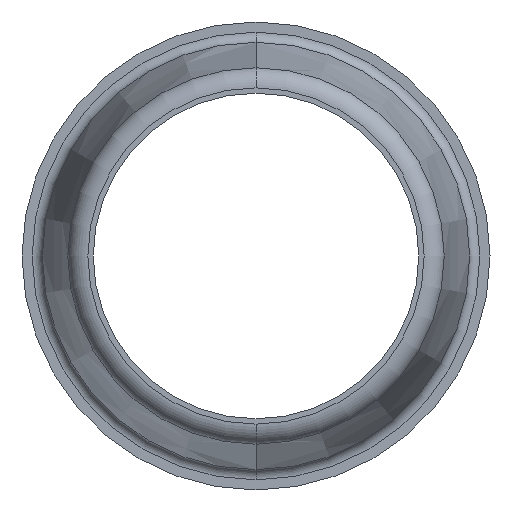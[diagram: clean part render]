
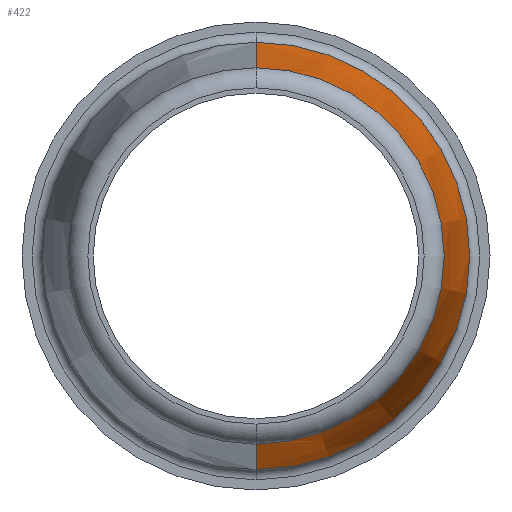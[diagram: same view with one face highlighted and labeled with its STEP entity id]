
A CAD part, front view. The second image highlights one B-rep face of the part: STEP entity #422.
In plain terms, the highlighted conical face has half-angle 9.267 degrees and reference radius 9.25 mm.
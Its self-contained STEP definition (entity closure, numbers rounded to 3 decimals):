
#8 = VECTOR ( 'NONE', #278, 1000. ) ;
#69 = CARTESIAN_POINT ( 'NONE',  ( 571.403, -2053.452, 0. ) ) ;
#75 = EDGE_CURVE ( 'NONE', #1111, #586, #951, .T. ) ;
#92 = DIRECTION ( 'NONE',  ( 0., 0., 1. ) ) ;
#94 = AXIS2_PLACEMENT_3D ( 'NONE', #191, #735, #92 ) ;
#107 = EDGE_LOOP ( 'NONE', ( #1008, #749, #125, #1108 ) ) ;
#125 = ORIENTED_EDGE ( 'NONE', *, *, #132, .F. ) ;
#132 = EDGE_CURVE ( 'NONE', #586, #1139, #1151, .T. ) ;
#171 = AXIS2_PLACEMENT_3D ( 'NONE', #453, #534, #1005 ) ;
#191 = CARTESIAN_POINT ( 'NONE',  ( 571.403, -2053.452, 0. ) ) ;
#252 = CARTESIAN_POINT ( 'NONE',  ( 571.403, -2053.452, 9.25 ) ) ;
#275 = AXIS2_PLACEMENT_3D ( 'NONE', #69, #1093, #1190 ) ;
#278 = DIRECTION ( 'NONE',  ( 0., 0.987, -0.161 ) ) ;
#314 = VERTEX_POINT ( 'NONE', #485 ) ;
#334 = EDGE_CURVE ( 'NONE', #314, #1139, #695, .T. ) ;
#341 = CONICAL_SURFACE ( 'NONE', #275, 9.25, 0.162 ) ;
#367 = DIRECTION ( 'NONE',  ( 0., 0.987, 0.161 ) ) ;
#375 = FACE_OUTER_BOUND ( 'NONE', #107, .T. ) ;
#422 = ADVANCED_FACE ( 'NONE', ( #375 ), #341, .T. ) ;
#428 = CARTESIAN_POINT ( 'NONE',  ( 571.403, -2045.791, 10.5 ) ) ;
#453 = CARTESIAN_POINT ( 'NONE',  ( 571.403, -2045.791, 0. ) ) ;
#485 = CARTESIAN_POINT ( 'NONE',  ( 571.403, -2053.452, -9.25 ) ) ;
#534 = DIRECTION ( 'NONE',  ( 0., 1., 0. ) ) ;
#586 = VERTEX_POINT ( 'NONE', #428 ) ;
#640 = CIRCLE ( 'NONE', #94, 9.25 ) ;
#695 = LINE ( 'NONE', #920, #8 ) ;
#735 = DIRECTION ( 'NONE',  ( 0., 1., 0. ) ) ;
#749 = ORIENTED_EDGE ( 'NONE', *, *, #334, .T. ) ;
#775 = CARTESIAN_POINT ( 'NONE',  ( 571.403, -2053.452, 9.25 ) ) ;
#862 = EDGE_CURVE ( 'NONE', #1111, #314, #640, .T. ) ;
#920 = CARTESIAN_POINT ( 'NONE',  ( 571.403, -2053.452, -9.25 ) ) ;
#951 = LINE ( 'NONE', #775, #960 ) ;
#960 = VECTOR ( 'NONE', #367, 1000. ) ;
#1005 = DIRECTION ( 'NONE',  ( 0., 0., 1. ) ) ;
#1008 = ORIENTED_EDGE ( 'NONE', *, *, #862, .T. ) ;
#1074 = CARTESIAN_POINT ( 'NONE',  ( 571.403, -2045.791, -10.5 ) ) ;
#1093 = DIRECTION ( 'NONE',  ( 0., 1., 0. ) ) ;
#1108 = ORIENTED_EDGE ( 'NONE', *, *, #75, .F. ) ;
#1111 = VERTEX_POINT ( 'NONE', #252 ) ;
#1139 = VERTEX_POINT ( 'NONE', #1074 ) ;
#1151 = CIRCLE ( 'NONE', #171, 10.5 ) ;
#1190 = DIRECTION ( 'NONE',  ( 0., 0., 1. ) ) ;
